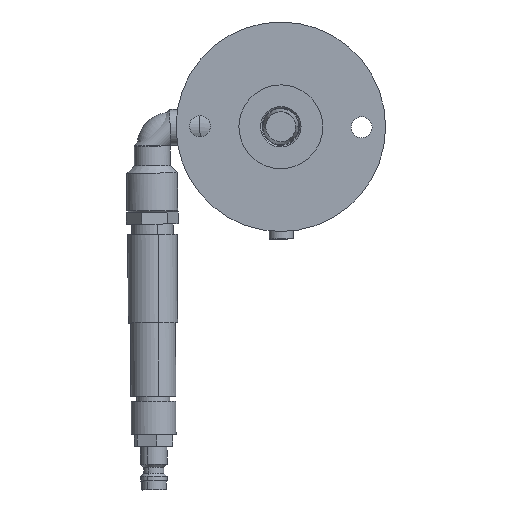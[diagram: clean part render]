
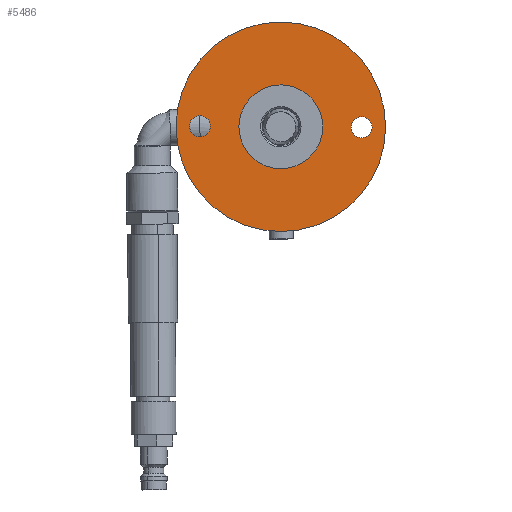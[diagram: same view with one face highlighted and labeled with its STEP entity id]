
A CAD part, front view. The second image highlights one B-rep face of the part: STEP entity #5486.
In plain terms, the highlighted planar face has unit normal (0, -1, 0) as drawn and (-1, 0, 0) by its records, which use the part's own axes.
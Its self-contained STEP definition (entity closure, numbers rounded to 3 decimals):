
#81 = EDGE_LOOP ( 'NONE', ( #2664, #2738 ) ) ;
#189 = AXIS2_PLACEMENT_3D ( 'NONE', #340, #4737, #972 ) ;
#211 = DIRECTION ( 'NONE',  ( 0., 0., -1. ) ) ;
#340 = CARTESIAN_POINT ( 'NONE',  ( 3., 0., 0. ) ) ;
#390 = CIRCLE ( 'NONE', #4675, 3.5 ) ;
#394 = ORIENTED_EDGE ( 'NONE', *, *, #1495, .T. ) ;
#401 = CARTESIAN_POINT ( 'NONE',  ( 3., 27., 3.5 ) ) ;
#502 = EDGE_LOOP ( 'NONE', ( #394, #7080 ) ) ;
#565 = VERTEX_POINT ( 'NONE', #4674 ) ;
#609 = AXIS2_PLACEMENT_3D ( 'NONE', #5997, #2222, #6626 ) ;
#630 = CARTESIAN_POINT ( 'NONE',  ( 3., -27., 0. ) ) ;
#909 = ORIENTED_EDGE ( 'NONE', *, *, #4090, .T. ) ;
#972 = DIRECTION ( 'NONE',  ( 0., 0., -1. ) ) ;
#1013 = FACE_BOUND ( 'NONE', #81, .T. ) ;
#1272 = DIRECTION ( 'NONE',  ( 0., 0., -1. ) ) ;
#1495 = EDGE_CURVE ( 'NONE', #3181, #6682, #5857, .T. ) ;
#1590 = DIRECTION ( 'NONE',  ( 0., 0., -1. ) ) ;
#1618 = ORIENTED_EDGE ( 'NONE', *, *, #6705, .F. ) ;
#2222 = DIRECTION ( 'NONE',  ( 1., 0., 0. ) ) ;
#2514 = CARTESIAN_POINT ( 'NONE',  ( 3., 27., -3.5 ) ) ;
#2618 = EDGE_LOOP ( 'NONE', ( #909, #3408 ) ) ;
#2664 = ORIENTED_EDGE ( 'NONE', *, *, #4277, .T. ) ;
#2694 = CARTESIAN_POINT ( 'NONE',  ( 3., 0., 0. ) ) ;
#2738 = ORIENTED_EDGE ( 'NONE', *, *, #3086, .T. ) ;
#2942 = EDGE_CURVE ( 'NONE', #565, #3902, #5421, .T. ) ;
#2973 = VERTEX_POINT ( 'NONE', #4911 ) ;
#3086 = EDGE_CURVE ( 'NONE', #5586, #7394, #5703, .T. ) ;
#3113 = ORIENTED_EDGE ( 'NONE', *, *, #4253, .F. ) ;
#3143 = CIRCLE ( 'NONE', #609, 3.5 ) ;
#3181 = VERTEX_POINT ( 'NONE', #7280 ) ;
#3255 = CARTESIAN_POINT ( 'NONE',  ( 3., 0., 35. ) ) ;
#3324 = DIRECTION ( 'NONE',  ( 0., 0., -1. ) ) ;
#3408 = ORIENTED_EDGE ( 'NONE', *, *, #2942, .T. ) ;
#3447 = CARTESIAN_POINT ( 'NONE',  ( 3., 27., 0. ) ) ;
#3609 = CARTESIAN_POINT ( 'NONE',  ( 3., -27., 0. ) ) ;
#3715 = AXIS2_PLACEMENT_3D ( 'NONE', #3731, #8116, #4363 ) ;
#3717 = AXIS2_PLACEMENT_3D ( 'NONE', #2694, #7096, #3324 ) ;
#3731 = CARTESIAN_POINT ( 'NONE',  ( 3., 0., 0. ) ) ;
#3877 = AXIS2_PLACEMENT_3D ( 'NONE', #3447, #7830, #4081 ) ;
#3902 = VERTEX_POINT ( 'NONE', #4149 ) ;
#3970 = DIRECTION ( 'NONE',  ( 1., 0., 0. ) ) ;
#4081 = DIRECTION ( 'NONE',  ( 0., 0., -1. ) ) ;
#4083 = PLANE ( 'NONE',  #7814 ) ;
#4090 = EDGE_CURVE ( 'NONE', #3902, #565, #7263, .T. ) ;
#4149 = CARTESIAN_POINT ( 'NONE',  ( 3., 0., 14. ) ) ;
#4246 = DIRECTION ( 'NONE',  ( 0., 0., -1. ) ) ;
#4253 = EDGE_CURVE ( 'NONE', #2973, #6931, #7944, .T. ) ;
#4277 = EDGE_CURVE ( 'NONE', #7394, #5586, #3143, .T. ) ;
#4363 = DIRECTION ( 'NONE',  ( 0., 0., -1. ) ) ;
#4458 = AXIS2_PLACEMENT_3D ( 'NONE', #7720, #3970, #211 ) ;
#4549 = FACE_OUTER_BOUND ( 'NONE', #4726, .T. ) ;
#4570 = EDGE_CURVE ( 'NONE', #6682, #3181, #390, .T. ) ;
#4674 = CARTESIAN_POINT ( 'NONE',  ( 3., 0., -14. ) ) ;
#4675 = AXIS2_PLACEMENT_3D ( 'NONE', #630, #5032, #1272 ) ;
#4726 = EDGE_LOOP ( 'NONE', ( #1618, #3113 ) ) ;
#4737 = DIRECTION ( 'NONE',  ( 1., 0., 0. ) ) ;
#4911 = CARTESIAN_POINT ( 'NONE',  ( 3., 0., -35. ) ) ;
#4960 = CIRCLE ( 'NONE', #3715, 35. ) ;
#5032 = DIRECTION ( 'NONE',  ( 1., 0., 0. ) ) ;
#5358 = DIRECTION ( 'NONE',  ( 1., 0., 0. ) ) ;
#5421 = CIRCLE ( 'NONE', #4458, 14. ) ;
#5486 = ADVANCED_FACE ( 'NONE', ( #7869, #1013, #6020, #4549 ), #4083, .F. ) ;
#5576 = CARTESIAN_POINT ( 'NONE',  ( 3., -27., 3.5 ) ) ;
#5586 = VERTEX_POINT ( 'NONE', #401 ) ;
#5703 = CIRCLE ( 'NONE', #3877, 3.5 ) ;
#5857 = CIRCLE ( 'NONE', #6471, 3.5 ) ;
#5964 = CARTESIAN_POINT ( 'NONE',  ( 3., 0., 0. ) ) ;
#5997 = CARTESIAN_POINT ( 'NONE',  ( 3., 27., 0. ) ) ;
#6020 = FACE_BOUND ( 'NONE', #2618, .T. ) ;
#6471 = AXIS2_PLACEMENT_3D ( 'NONE', #3609, #7994, #4246 ) ;
#6626 = DIRECTION ( 'NONE',  ( 0., 0., -1. ) ) ;
#6682 = VERTEX_POINT ( 'NONE', #5576 ) ;
#6705 = EDGE_CURVE ( 'NONE', #6931, #2973, #4960, .T. ) ;
#6931 = VERTEX_POINT ( 'NONE', #3255 ) ;
#7080 = ORIENTED_EDGE ( 'NONE', *, *, #4570, .T. ) ;
#7096 = DIRECTION ( 'NONE',  ( 1., 0., 0. ) ) ;
#7263 = CIRCLE ( 'NONE', #3717, 14. ) ;
#7280 = CARTESIAN_POINT ( 'NONE',  ( 3., -27., -3.5 ) ) ;
#7394 = VERTEX_POINT ( 'NONE', #2514 ) ;
#7720 = CARTESIAN_POINT ( 'NONE',  ( 3., 0., 0. ) ) ;
#7814 = AXIS2_PLACEMENT_3D ( 'NONE', #5964, #5358, #1590 ) ;
#7830 = DIRECTION ( 'NONE',  ( 1., 0., 0. ) ) ;
#7869 = FACE_BOUND ( 'NONE', #502, .T. ) ;
#7944 = CIRCLE ( 'NONE', #189, 35. ) ;
#7994 = DIRECTION ( 'NONE',  ( 1., 0., 0. ) ) ;
#8116 = DIRECTION ( 'NONE',  ( 1., 0., 0. ) ) ;
